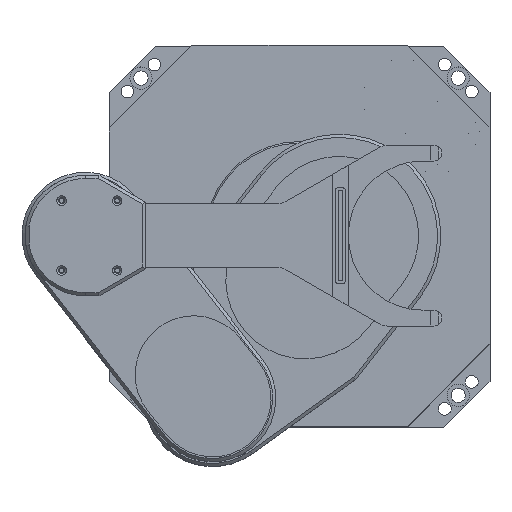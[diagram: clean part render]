
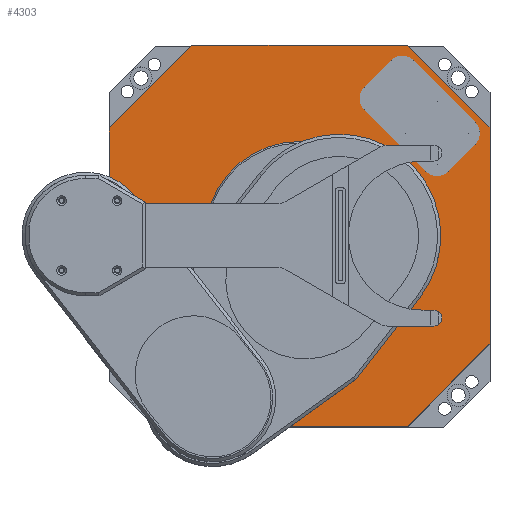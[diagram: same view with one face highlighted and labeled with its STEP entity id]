
A CAD part, top view. The second image highlights one B-rep face of the part: STEP entity #4303.
In plain terms, the highlighted planar face has unit normal (0, 0, 1).
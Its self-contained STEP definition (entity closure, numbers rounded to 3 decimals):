
#177=LINE('',#6723,#578);
#181=LINE('',#6735,#582);
#185=LINE('',#6747,#586);
#189=LINE('',#6757,#590);
#206=LINE('',#6795,#607);
#209=LINE('',#6800,#610);
#211=LINE('',#6804,#612);
#213=LINE('',#6808,#614);
#215=LINE('',#6812,#616);
#217=LINE('',#6816,#618);
#219=LINE('',#6820,#620);
#221=LINE('',#6823,#622);
#578=VECTOR('',#5417,10.);
#582=VECTOR('',#5429,10.);
#586=VECTOR('',#5441,10.);
#590=VECTOR('',#5453,10.);
#607=VECTOR('',#5476,10.);
#610=VECTOR('',#5481,10.);
#612=VECTOR('',#5485,10.);
#614=VECTOR('',#5489,10.);
#616=VECTOR('',#5493,10.);
#618=VECTOR('',#5497,10.);
#620=VECTOR('',#5501,10.);
#622=VECTOR('',#5505,10.);
#938=PLANE('',#4765);
#1080=FACE_BOUND('',#1539,.T.);
#1081=FACE_BOUND('',#1540,.T.);
#1250=FACE_OUTER_BOUND('',#1538,.T.);
#1538=EDGE_LOOP('',(#3315,#3316,#3317,#3318,#3319,#3320,#3321,#3322));
#1539=EDGE_LOOP('',(#3323));
#1540=EDGE_LOOP('',(#3324,#3325,#3326,#3327,#3328,#3329,#3330,#3331));
#1803=CIRCLE('',#4624,59.5);
#1855=CIRCLE('',#4741,10.);
#1857=CIRCLE('',#4745,10.);
#1859=CIRCLE('',#4749,10.);
#1861=CIRCLE('',#4753,10.);
#1981=VERTEX_POINT('',#6397);
#2090=VERTEX_POINT('',#6714);
#2091=VERTEX_POINT('',#6716);
#2093=VERTEX_POINT('',#6722);
#2095=VERTEX_POINT('',#6728);
#2097=VERTEX_POINT('',#6734);
#2099=VERTEX_POINT('',#6740);
#2101=VERTEX_POINT('',#6746);
#2103=VERTEX_POINT('',#6752);
#2120=VERTEX_POINT('',#6793);
#2121=VERTEX_POINT('',#6794);
#2122=VERTEX_POINT('',#6799);
#2123=VERTEX_POINT('',#6803);
#2124=VERTEX_POINT('',#6807);
#2125=VERTEX_POINT('',#6811);
#2126=VERTEX_POINT('',#6815);
#2127=VERTEX_POINT('',#6819);
#2391=EDGE_CURVE('',#1981,#1981,#1803,.T.);
#2535=EDGE_CURVE('',#2091,#2090,#1855,.T.);
#2538=EDGE_CURVE('',#2093,#2091,#177,.T.);
#2541=EDGE_CURVE('',#2095,#2093,#1857,.T.);
#2544=EDGE_CURVE('',#2097,#2095,#181,.T.);
#2547=EDGE_CURVE('',#2099,#2097,#1859,.T.);
#2550=EDGE_CURVE('',#2101,#2099,#185,.T.);
#2553=EDGE_CURVE('',#2103,#2101,#1861,.T.);
#2556=EDGE_CURVE('',#2090,#2103,#189,.T.);
#2573=EDGE_CURVE('',#2120,#2121,#206,.T.);
#2576=EDGE_CURVE('',#2121,#2122,#209,.T.);
#2578=EDGE_CURVE('',#2122,#2123,#211,.T.);
#2580=EDGE_CURVE('',#2123,#2124,#213,.T.);
#2582=EDGE_CURVE('',#2124,#2125,#215,.T.);
#2584=EDGE_CURVE('',#2125,#2126,#217,.T.);
#2586=EDGE_CURVE('',#2126,#2127,#219,.T.);
#2588=EDGE_CURVE('',#2127,#2120,#221,.T.);
#3315=ORIENTED_EDGE('',*,*,#2573,.F.);
#3316=ORIENTED_EDGE('',*,*,#2588,.F.);
#3317=ORIENTED_EDGE('',*,*,#2586,.F.);
#3318=ORIENTED_EDGE('',*,*,#2584,.F.);
#3319=ORIENTED_EDGE('',*,*,#2582,.F.);
#3320=ORIENTED_EDGE('',*,*,#2580,.F.);
#3321=ORIENTED_EDGE('',*,*,#2578,.F.);
#3322=ORIENTED_EDGE('',*,*,#2576,.F.);
#3323=ORIENTED_EDGE('',*,*,#2391,.T.);
#3324=ORIENTED_EDGE('',*,*,#2535,.T.);
#3325=ORIENTED_EDGE('',*,*,#2556,.T.);
#3326=ORIENTED_EDGE('',*,*,#2553,.T.);
#3327=ORIENTED_EDGE('',*,*,#2550,.T.);
#3328=ORIENTED_EDGE('',*,*,#2547,.T.);
#3329=ORIENTED_EDGE('',*,*,#2544,.T.);
#3330=ORIENTED_EDGE('',*,*,#2541,.T.);
#3331=ORIENTED_EDGE('',*,*,#2538,.T.);
#4303=ADVANCED_FACE('',(#1250,#1080,#1081),#938,.T.);
#4624=AXIS2_PLACEMENT_3D('',#6398,#5085,#5086);
#4741=AXIS2_PLACEMENT_3D('',#6717,#5411,#5412);
#4745=AXIS2_PLACEMENT_3D('',#6729,#5423,#5424);
#4749=AXIS2_PLACEMENT_3D('',#6741,#5435,#5436);
#4753=AXIS2_PLACEMENT_3D('',#6753,#5447,#5448);
#4765=AXIS2_PLACEMENT_3D('',#6824,#5506,#5507);
#5085=DIRECTION('center_axis',(0.,0.,-1.));
#5086=DIRECTION('ref_axis',(-1.,0.,0.));
#5411=DIRECTION('center_axis',(0.,0.,-1.));
#5412=DIRECTION('ref_axis',(0.707,-0.707,0.));
#5417=DIRECTION('',(-0.707,0.707,0.));
#5423=DIRECTION('center_axis',(0.,0.,-1.));
#5424=DIRECTION('ref_axis',(0.707,0.707,0.));
#5429=DIRECTION('',(-0.707,-0.707,0.));
#5435=DIRECTION('center_axis',(0.,0.,-1.));
#5436=DIRECTION('ref_axis',(-0.707,0.707,0.));
#5441=DIRECTION('',(0.707,-0.707,0.));
#5447=DIRECTION('center_axis',(0.,0.,-1.));
#5448=DIRECTION('ref_axis',(-0.707,-0.707,0.));
#5453=DIRECTION('',(0.707,0.707,0.));
#5476=DIRECTION('',(1.,0.,0.));
#5481=DIRECTION('',(0.707,-0.707,0.));
#5485=DIRECTION('',(0.,-1.,0.));
#5489=DIRECTION('',(-0.707,-0.707,0.));
#5493=DIRECTION('',(-1.,0.,0.));
#5497=DIRECTION('',(-0.707,0.707,0.));
#5501=DIRECTION('',(0.,1.,0.));
#5505=DIRECTION('',(0.707,0.707,0.));
#5506=DIRECTION('center_axis',(0.,0.,1.));
#5507=DIRECTION('ref_axis',(1.,0.,0.));
#6397=CARTESIAN_POINT('',(59.5,0.,330.));
#6398=CARTESIAN_POINT('Origin',(0.,0.,330.));
#6714=CARTESIAN_POINT('',(40.659,93.692,330.));
#6716=CARTESIAN_POINT('',(40.659,79.55,330.));
#6717=CARTESIAN_POINT('Origin',(47.73,86.621,330.));
#6722=CARTESIAN_POINT('',(79.55,40.659,330.));
#6723=CARTESIAN_POINT('',(50.381,69.827,330.));
#6728=CARTESIAN_POINT('',(93.692,40.659,330.));
#6729=CARTESIAN_POINT('Origin',(86.621,47.73,330.));
#6734=CARTESIAN_POINT('',(110.662,57.629,330.));
#6735=CARTESIAN_POINT('',(60.104,7.071,330.));
#6740=CARTESIAN_POINT('',(110.662,71.771,330.));
#6741=CARTESIAN_POINT('Origin',(103.591,64.7,330.));
#6746=CARTESIAN_POINT('',(71.771,110.662,330.));
#6747=CARTESIAN_POINT('',(100.939,81.494,330.));
#6752=CARTESIAN_POINT('',(57.629,110.662,330.));
#6753=CARTESIAN_POINT('Origin',(64.7,103.591,330.));
#6757=CARTESIAN_POINT('',(15.556,68.589,330.));
#6793=CARTESIAN_POINT('',(-68.,120.,330.));
#6794=CARTESIAN_POINT('',(68.,120.,330.));
#6795=CARTESIAN_POINT('',(68.,120.,330.));
#6799=CARTESIAN_POINT('',(120.,68.,330.));
#6800=CARTESIAN_POINT('',(120.,68.,330.));
#6803=CARTESIAN_POINT('',(120.,-68.,330.));
#6804=CARTESIAN_POINT('',(120.,-68.,330.));
#6807=CARTESIAN_POINT('',(68.,-120.,330.));
#6808=CARTESIAN_POINT('',(68.,-120.,330.));
#6811=CARTESIAN_POINT('',(-68.,-120.,330.));
#6812=CARTESIAN_POINT('',(-68.,-120.,330.));
#6815=CARTESIAN_POINT('',(-120.,-68.,330.));
#6816=CARTESIAN_POINT('',(-120.,-68.,330.));
#6819=CARTESIAN_POINT('',(-120.,68.,330.));
#6820=CARTESIAN_POINT('',(-120.,68.,330.));
#6823=CARTESIAN_POINT('',(-68.,120.,330.));
#6824=CARTESIAN_POINT('Origin',(0.,0.,
330.));
